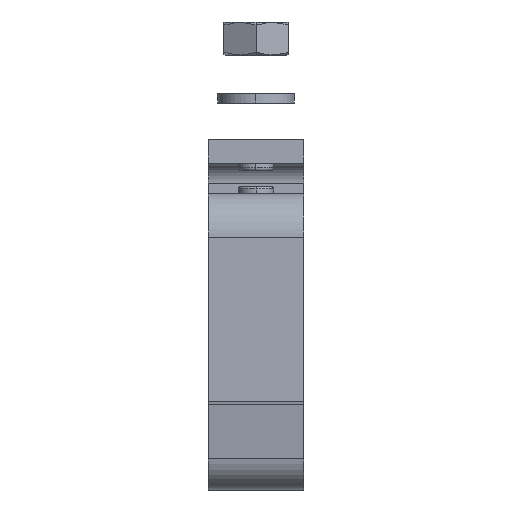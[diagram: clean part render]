
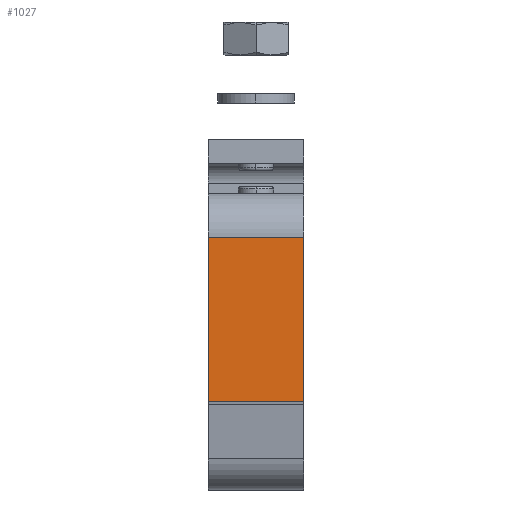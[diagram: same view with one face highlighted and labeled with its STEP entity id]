
A CAD part, left-side view. The second image highlights one B-rep face of the part: STEP entity #1027.
In plain terms, the highlighted planar face has unit normal (-1, 0, 0).
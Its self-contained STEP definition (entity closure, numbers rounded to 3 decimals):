
#89=PLANE($,#3216);
#1027=ADVANCED_FACE($,(#1143),#89,.T.);
#1143=FACE_OUTER_BOUND($,#1267,.T.);
#1267=EDGE_LOOP($,(#1622,#1623,#1624,#1625));
#1622=ORIENTED_EDGE($,*,*,#2089,.F.);
#1623=ORIENTED_EDGE($,*,*,#2088,.F.);
#1624=ORIENTED_EDGE($,*,*,#2087,.T.);
#1625=ORIENTED_EDGE($,*,*,#2086,.T.);
#2086=EDGE_CURVE($,#2486,#2487,#2901,.T.);
#2087=EDGE_CURVE($,#2488,#2486,#2902,.T.);
#2088=EDGE_CURVE($,#2488,#2489,#2903,.T.);
#2089=EDGE_CURVE($,#2489,#2487,#2904,.T.);
#2486=VERTEX_POINT($,#6204);
#2487=VERTEX_POINT($,#6205);
#2488=VERTEX_POINT($,#6206);
#2489=VERTEX_POINT($,#6207);
#2901=B_SPLINE_CURVE_WITH_KNOTS($,1,(#6195,#6196),.UNSPECIFIED.,.F.,.F.,
(2,2),(0.,45.606),.UNSPECIFIED.);
#2902=B_SPLINE_CURVE_WITH_KNOTS($,1,(#6197,#6198),.UNSPECIFIED.,.F.,.F.,
(2,2),(-20.,0.),.UNSPECIFIED.);
#2903=B_SPLINE_CURVE_WITH_KNOTS($,1,(#6199,#6200),.UNSPECIFIED.,.F.,.F.,
(2,2),(0.,45.606),.UNSPECIFIED.);
#2904=B_SPLINE_CURVE_WITH_KNOTS($,1,(#6201,#6202),.UNSPECIFIED.,.F.,.F.,
(2,2),(-20.,0.),.UNSPECIFIED.);
#3216=AXIS2_PLACEMENT_3D($,#6203,#3264,$);
#3264=DIRECTION($,(-1.,0.,0.));
#6195=CARTESIAN_POINT($,(-145.104,10.,-9.192));
#6196=CARTESIAN_POINT($,(-145.104,10.,-54.798));
#6197=CARTESIAN_POINT($,(-145.104,-10.,-9.192));
#6198=CARTESIAN_POINT($,(-145.104,10.,-9.192));
#6199=CARTESIAN_POINT($,(-145.104,-10.,-9.192));
#6200=CARTESIAN_POINT($,(-145.104,-10.,-54.798));
#6201=CARTESIAN_POINT($,(-145.104,-10.,-54.798));
#6202=CARTESIAN_POINT($,(-145.104,10.,-54.798));
#6203=CARTESIAN_POINT($,(-145.104,10.,-54.798));
#6204=CARTESIAN_POINT($,(-145.104,10.,-9.192));
#6205=CARTESIAN_POINT($,(-145.104,10.,-54.798));
#6206=CARTESIAN_POINT($,(-145.104,-10.,-9.192));
#6207=CARTESIAN_POINT($,(-145.104,-10.,-54.798));
